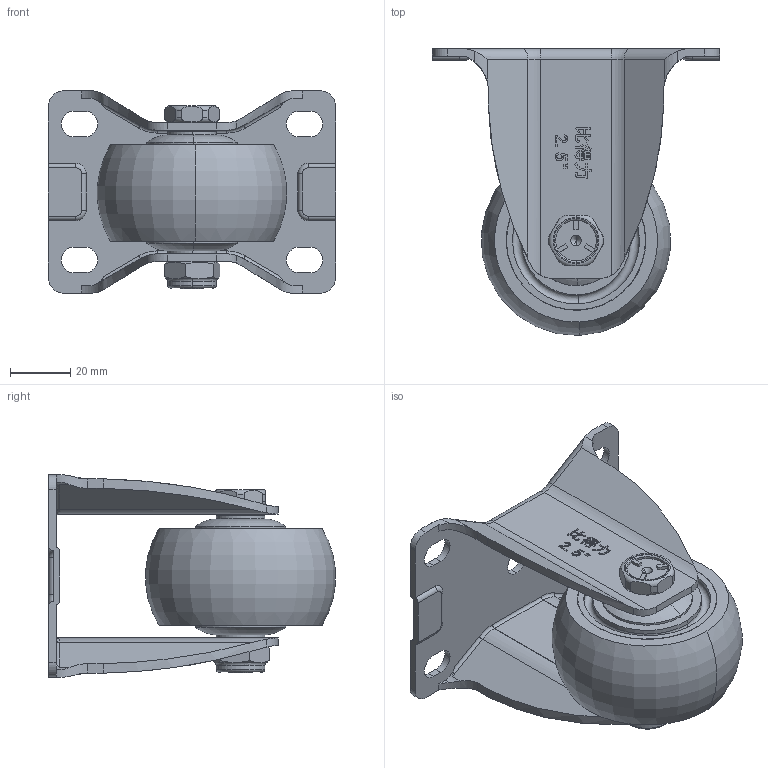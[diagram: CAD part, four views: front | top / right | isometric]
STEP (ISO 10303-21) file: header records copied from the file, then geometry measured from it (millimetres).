
FILE_DESCRIPTION (( 'STEP AP203' ), '1' );
FILE_NAME ('2.5寸定向.STEP', '2024-03-19T03:31:35', ( '微软用户' ), ( '微软中国' ), 'SwSTEP 2.0', 'SolidWorks 2008', '' );
FILE_SCHEMA (( 'CONFIG_CONTROL_DESIGN' ));
Length unit declared in the file: millimetre
Products named in the file (6): 2.5渡隅砃; 40.2mm中型中管_默认; M10-55蹟裝; M10蹟譫; 2023-3-18  2.5寸固定支架_默认; 中型2.5寸轮_默认
Assembly tree (5 placements, depth 2):
  2.5渡隅砃
    中型2.5寸轮_默认
    M10蹟譫
    2023-3-18  2.5寸固定支架_默认
    M10-55蹟裝
    40.2mm中型中管_默认
Bounding box: 95 x 94.88 x 67 mm (x, y, z)
Volume: 127859.9 mm3; surface area: 50144.5 mm2
Topology: 5 solids, 5 shells, 497 faces, 1315 edges, 861 vertices
Faces by surface type: plane 198, cylinder 159, bspline 86, torus 40, cone 14
Entity records: 22040 total; most frequent: CARTESIAN_POINT 9793, ORIENTED_EDGE 2626, DIRECTION 2109, EDGE_CURVE 1313, VERTEX_POINT 861, AXIS2_PLACEMENT_3D 718, LINE 673, VECTOR 673
